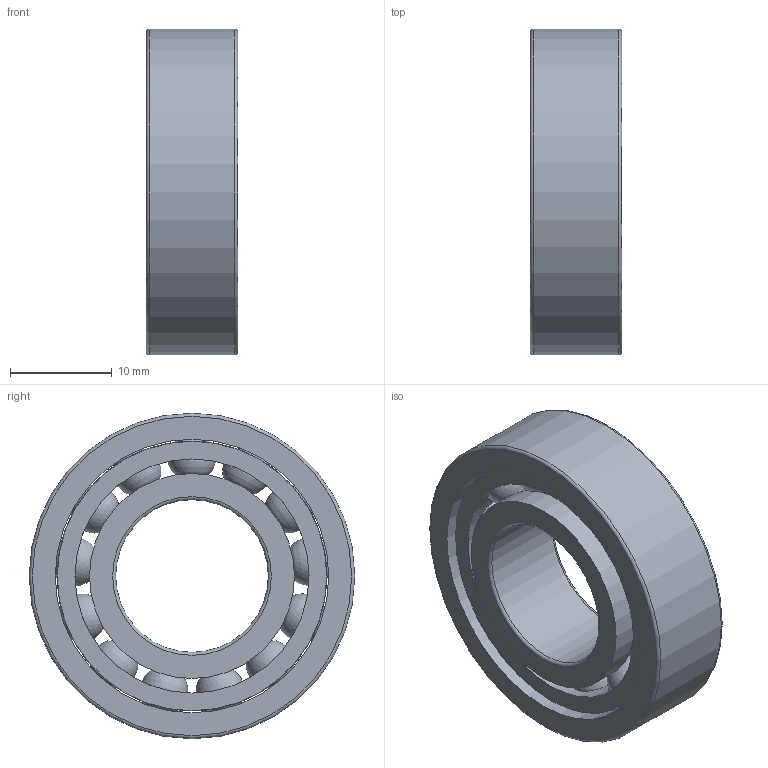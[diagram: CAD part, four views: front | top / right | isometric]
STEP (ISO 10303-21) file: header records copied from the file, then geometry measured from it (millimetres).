
FILE_DESCRIPTION(/* description */ (''),/* implementation_level */ '2;1');
FILE_NAME(/* name */ 'SM_6002_TA.step',/* time_stamp */ '2013-03-11T11:34:11+01:00',/* author */ ('Marian'),/* organization */ ('GMN'),/* preprocessor_version */ 'ST-DEVELOPER v11',/* originating_system */ 'SIEMENS UGS NX 6.0',/* authorisation */ '');
FILE_SCHEMA (('CONFIG_CONTROL_DESIGN'));
Length unit declared in the file: millimetre
Products named in the file (1): SM_6002_TA
Bounding box: 9 x 32 x 32 mm (x, y, z)
Volume: 4223.7 mm3; surface area: 5503.8 mm2
Topology: 16 solids, 16 shells, 46 faces, 112 edges, 72 vertices
Faces by surface type: cylinder 20, sphere 13, torus 6, plane 6, cone 1
Full cylindrical faces by diameter (mm): 4.962 x13, 15 x1, 20.15 x2, 23.012 x1, 26.5 x1, 26.9 x1, 32 x1
Entity records: 2500 total; most frequent: CARTESIAN_POINT 1634, DIRECTION 134, FACE_BOUND 105, EDGE_LOOP 92, ORIENTED_EDGE 92, AXIS2_PLACEMENT_3D 67, VERTEX_POINT 59, EDGE_CURVE 46
